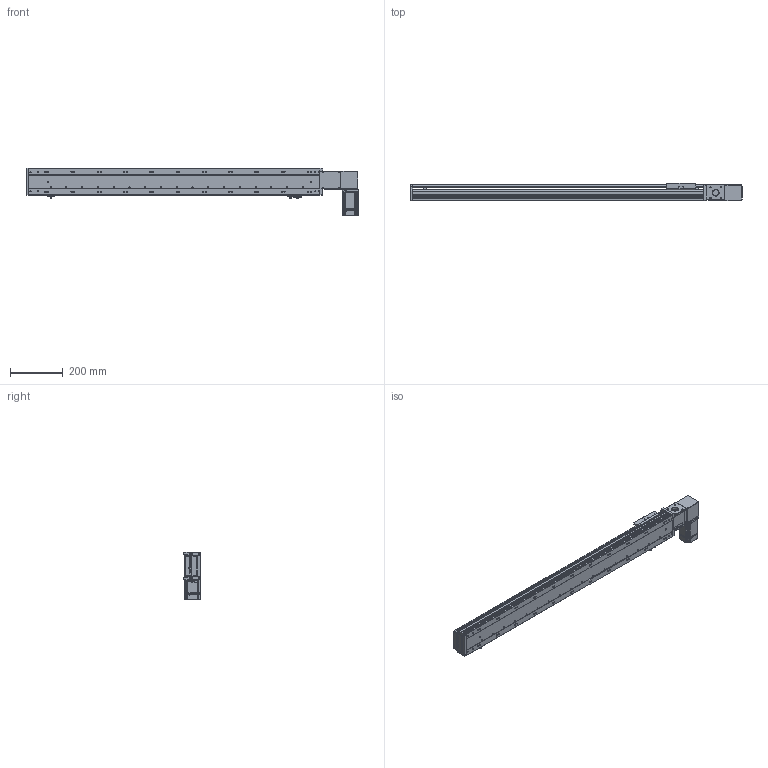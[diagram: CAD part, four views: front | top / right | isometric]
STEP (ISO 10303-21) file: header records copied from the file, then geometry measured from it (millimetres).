
FILE_DESCRIPTION (( 'STEP AP203' ), '1' );
FILE_NAME ('RY100-T-300-LK.SLDASM_900.step', '2024-04-25T05:37:23', ( '盈信电脑' ), ( '东莞市道滘镇水果街19号' ), 'SwSTEP 2.0', 'SolidWorks 2016', '' );
FILE_SCHEMA (( 'CONFIG_CONTROL_DESIGN' ));
Length unit declared in the file: millimetre
Products named in the file (13): RY100-T肮祭謫翋盓傅釱; RY100俋离覜茼え; RY100-T左右折电机安装板; RY100-T-300-RK倰第奻裔_900; RY100綴裔啣; RY100-T-300-LK.SLDASM_900; RY100-T肮祭謫臏賑輸; 覜茼ん672; RY100-T-300-RK倰第菁釱_900; RY80-T肮祭謫俋欶; 滅袉蝶18-10; 1; RY100-T翋肮祭謫裔啣2
Assembly tree (16 placements, depth 2):
  RY100-T-300-LK.SLDASM_900
    RY100-T-300-RK倰第菁釱_900
    RY100-T-300-RK倰第奻裔_900
    RY100-T肮祭謫臏賑輸
    RY100綴裔啣
    覜茼ん672  x3
    RY100俋离覜茼え
    RY100-T肮祭謫翋盓傅釱
    滅袉蝶18-10  x2
    RY100-T翋肮祭謫裔啣2  x2
    RY80-T肮祭謫俋欶
    RY100-T左右折电机安装板
    1
Bounding box: 1264 x 66 x 182.5 mm (x, y, z)
Volume: 2447510.5 mm3; surface area: 1003690 mm2
Topology: 16 solids, 16 shells, 2234 faces, 6269 edges, 4077 vertices
Faces by surface type: plane 1190, cylinder 827, cone 139, bspline 78
Entity records: 72171 total; most frequent: CARTESIAN_POINT 17909, ORIENTED_EDGE 11274, DIRECTION 10637, EDGE_CURVE 5637, VERTEX_POINT 3713, VECTOR 3589, LINE 3589, AXIS2_PLACEMENT_3D 3524
